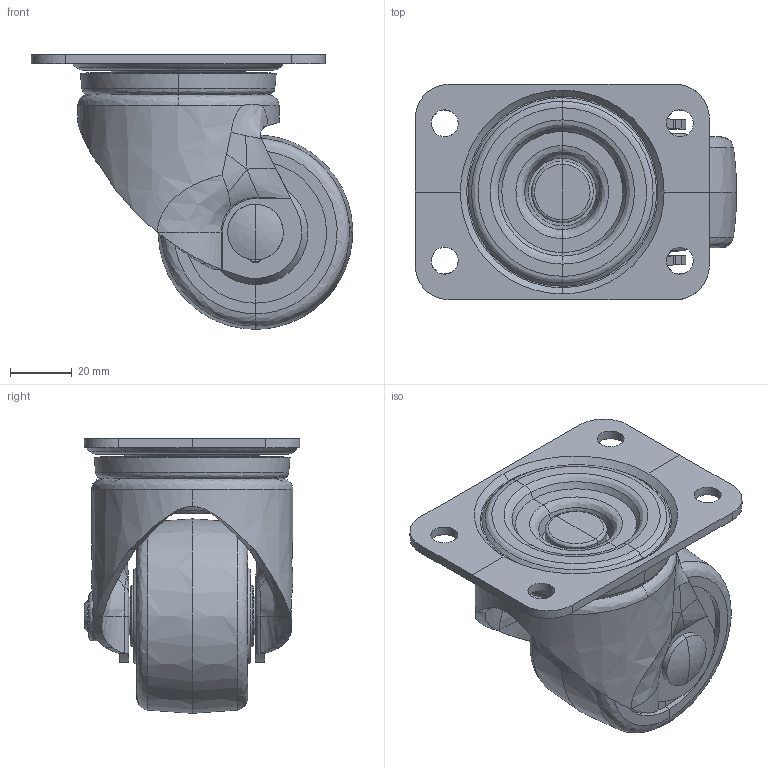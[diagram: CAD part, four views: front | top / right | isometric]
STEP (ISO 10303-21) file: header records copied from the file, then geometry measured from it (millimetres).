
FILE_DESCRIPTION (( 'STEP AP214' ), '1' );
FILE_NAME ('FP63WJ.STEP', '2023-10-15T12:20:01', ( 'sakai' ), ( 'Hewlett-Packard' ), 'SwSTEP 2.0', 'SolidWorks 2010', '' );
FILE_SCHEMA (( 'AUTOMOTIVE_DESIGN' ));
Length unit declared in the file: millimetre
Products named in the file (10): FP63WJ-10; FP63WJ-11; FP63WJ-12; FP63WJ-13; FP63WJ-14; FP63WJ-15; FP63WJ-16; FP63WJ-17; FP63WJ-18; FP63WJ
Assembly tree (9 placements, depth 2):
  FP63WJ
    FP63WJ-12
    FP63WJ-11
    FP63WJ-18
    FP63WJ-17
    FP63WJ-13
    FP63WJ-16
    FP63WJ-14
    FP63WJ-15
    FP63WJ-10
Bounding box: 104.07 x 69.9 x 89 mm (x, y, z)
Volume: 173620.2 mm3; surface area: 72717.3 mm2
Topology: 9 solids, 9 shells, 360 faces, 852 edges, 489 vertices
Faces by surface type: bspline 315, plane 45
Entity records: 64655 total; most frequent: CARTESIAN_POINT 58001, ORIENTED_EDGE 1688, EDGE_CURVE 844, B_SPLINE_CURVE_WITH_KNOTS 726, VERTEX_POINT 489, EDGE_LOOP 373, ADVANCED_FACE 360, FACE_OUTER_BOUND 360
